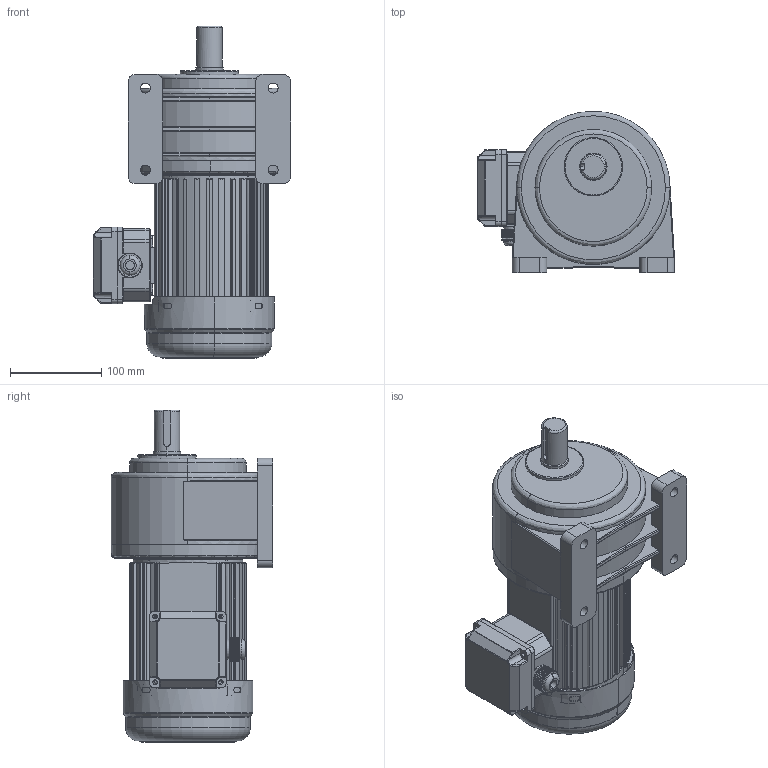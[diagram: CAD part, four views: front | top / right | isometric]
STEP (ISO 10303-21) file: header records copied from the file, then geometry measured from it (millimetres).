
FILE_DESCRIPTION (( 'STEP AP203' ), '1' );
FILE_NAME ('400W饜3#湍价陬拏宒.STEP', '2020-04-17T05:39:58', ( '' ), ( '' ), 'SwSTEP 2.0', 'SolidWorks 2019', '' );
FILE_SCHEMA (( 'CONFIG_CONTROL_DESIGN' ));
Length unit declared in the file: millimetre
Products named in the file (7): 蜊輛綴諉盄碟釱3; 400W饜3#拏宒; 400W饜3#湍价陬拏宒; 400W价陬瑞欶; 湍价陬諉盄碟裔; 諉芛; 400W棠憤迖殤
Assembly tree (6 placements, depth 2):
  400W饜3#湍价陬拏宒
    400W饜3#拏宒
    400W棠憤迖殤
    400W价陬瑞欶
    蜊輛綴諉盄碟釱3
    諉芛
    湍价陬諉盄碟裔
Bounding box: 216 x 177 x 364 mm (x, y, z)
Volume: 3072330.3 mm3; surface area: 599363.9 mm2
Topology: 8 solids, 8 shells, 2280 faces, 5882 edges, 3681 vertices
Faces by surface type: plane 779, cylinder 667, bspline 457, torus 215, cone 150, sphere 12
Entity records: 98068 total; most frequent: CARTESIAN_POINT 44638, ORIENTED_EDGE 11736, DIRECTION 10059, EDGE_CURVE 5868, VERTEX_POINT 3681, AXIS2_PLACEMENT_3D 3637, LINE 2785, VECTOR 2785
